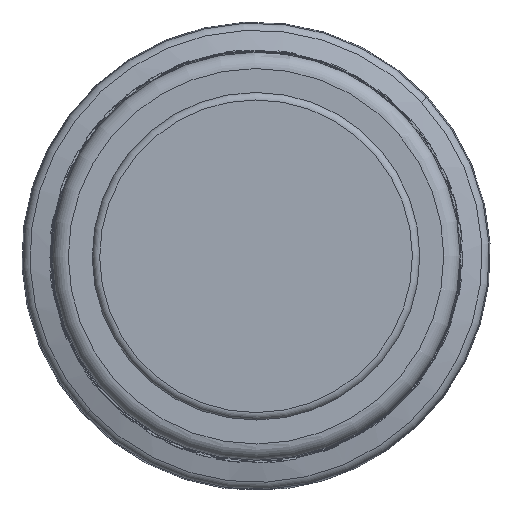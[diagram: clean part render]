
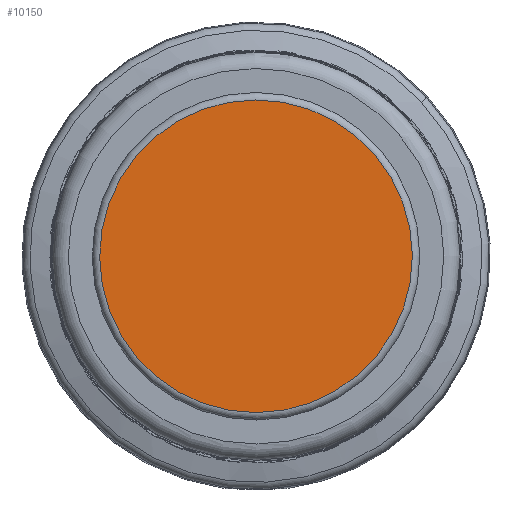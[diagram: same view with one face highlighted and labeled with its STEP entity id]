
A CAD part, front view. The second image highlights one B-rep face of the part: STEP entity #10150.
In plain terms, the highlighted planar face has unit normal (0, -1, 0).
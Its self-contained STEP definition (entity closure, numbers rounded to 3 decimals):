
#2540=FACE_OUTER_BOUND('',#14411,.T.);
#10150=ADVANCED_FACE('',(#2540),#11498,.T.);
#11498=PLANE('',#38335);
#14411=EDGE_LOOP('',(#23680));
#23680=ORIENTED_EDGE('',*,*,#33275,.T.);
#28301=VERTEX_POINT('',#79350);
#33275=EDGE_CURVE('',#28301,#28301,#35237,.T.);
#35237=CIRCLE('',#38334,20.09);
#38334=AXIS2_PLACEMENT_3D('',#79349,#46457,#46458);
#38335=AXIS2_PLACEMENT_3D('',#79351,#46459,#46460);
#46457=DIRECTION('',(0.,-1.,0.));
#46458=DIRECTION('',(0.005,0.,-1.));
#46459=DIRECTION('',(0.,-1.,0.));
#46460=DIRECTION('',(-0.005,0.,1.));
#79349=CARTESIAN_POINT('',(0.,-252.113,9.35));
#79350=CARTESIAN_POINT('',(0.1,-252.113,-10.74));
#79351=CARTESIAN_POINT('',(0.,-252.113,9.35));
